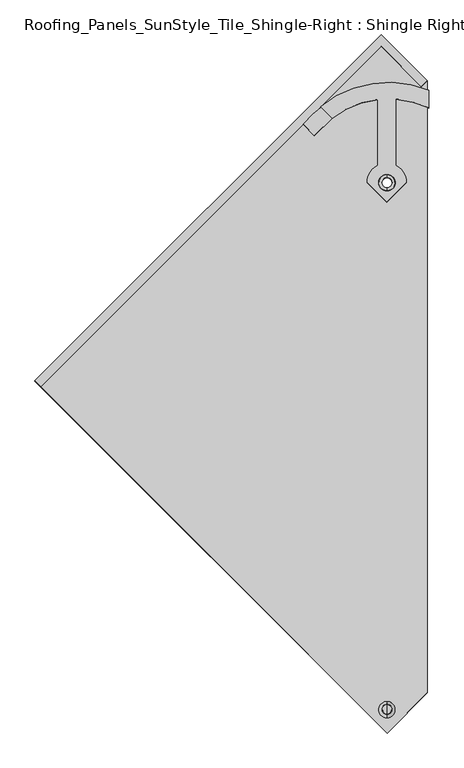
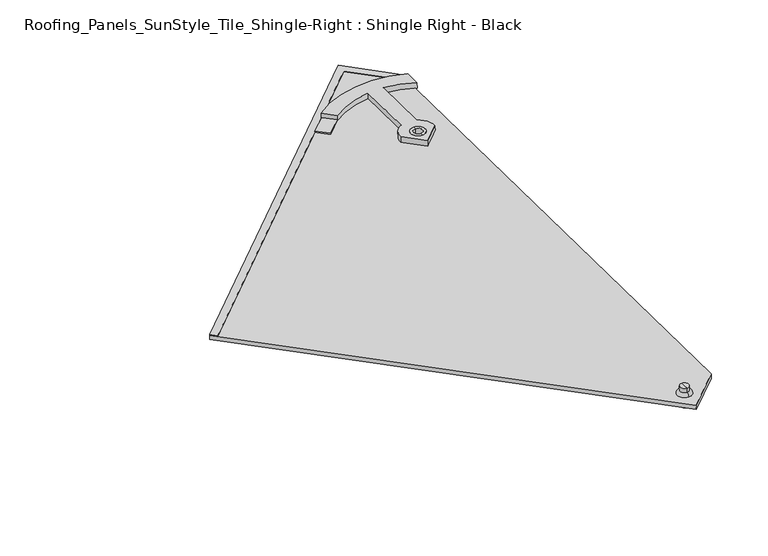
"""IFC4 building model written with IfcOpenShell, lengths in millimetres: proxy geometry, Roofing_Panels_SunStyle_Tile_Shingle-Right : Shingle Right - Black."""

from ifc_helpers import new_model, si_unit, point, frame, frame_2d, origin, place, context, project, spatial, polyline, circle_curve, ellipse_curve, trimmed, segment, composite_curve, outline, extrude, source, transform, mapped, element, save
from ifc_brep_helpers import plane_surface, cylinder_surface, revolved_surface, advanced_brep


def roofing_panels_sunstyle_tile_shingle_right_shingle_right_37b1760f(model_context):
    return source(origin(), model_context, "Body", "SolidModel", [
        advanced_brep(
        [(0.0, -498.1514468, 26.2215343), (0.0, -484.8183663, 25.9982384), (0.0, -485.1866754, 4.0063691), (0.0, -498.5197559, 4.229665), (0.0, -503.6506757, 26.3136327), (0.0, -479.3191374, 25.90614), (0.0, -498.7016794, 31.2274395), (0.0, -484.1008164, 30.9829114), (0.0, -491.2672194, 39.1080636), (0.0, -483.9667879, 38.9857996), (0.0, -498.5676509, 39.2303277), (0.0, -491.8532156, 4.118017)],
        [
            (0, 1, circle_curve(frame((0.0, -491.4849065, 26.1098864), z_axis=(0.0, -0.016745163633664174, -0.9998597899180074), x_axis=(0.0, 0.9998597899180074, -0.016745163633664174)), 6.6674751)),
            (1, 2),
            (2, 3, circle_curve(frame((0.0, -491.8532156, 4.118017), z_axis=(0.0, 0.016745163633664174, 0.9998597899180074), x_axis=(0.0, 0.9998597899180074, -0.016745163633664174)), 6.6674751)),
            (3, 0),
            (1, 0, circle_curve(frame((0.0, -491.4849065, 26.1098864), z_axis=(0.0, -0.016745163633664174, -0.9998597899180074), x_axis=(0.0, 0.9998597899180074, -0.016745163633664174)), 6.6674751)),
            (3, 2, circle_curve(frame((0.0, -491.8532156, 4.118017), z_axis=(0.0, 0.016745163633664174, 0.9998597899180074), x_axis=(0.0, 0.9998597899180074, -0.016745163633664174)), 6.6674751)),
            (4, 5, circle_curve(frame((0.0, -491.4849065, 26.1098864), z_axis=(0.0, -0.016745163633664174, -0.9998597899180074), x_axis=(0.0, 0.9998597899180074, -0.016745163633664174)), 12.1674751)),
            (5, 1),
            (0, 4),
            (5, 4, circle_curve(frame((0.0, -491.4849065, 26.1098864), z_axis=(0.0, -0.016745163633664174, -0.9998597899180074), x_axis=(0.0, 0.9998597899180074, -0.016745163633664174)), 12.1674751)),
            (6, 7, circle_curve(frame((0.0, -491.4012479, 31.1051755), z_axis=(0.0, -0.016745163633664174, -0.9998597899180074), x_axis=(0.0, 0.9998597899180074, -0.016745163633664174)), 7.3014552)),
            (7, 5, circle_curve(frame((0.0, -484.4050144, 25.90614), z_axis=(-1.0, 0.0, 0.0), x_axis=(0.0, -1.0, 0.0)), 5.0858769)),
            (4, 6, circle_curve(frame((0.0, -498.5676509, 26.1433289), z_axis=(-1.0, 0.0, 0.0), x_axis=(0.0, 0.9994391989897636, -0.03348563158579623)), 5.0858769)),
            (7, 6, circle_curve(frame((0.0, -491.4012479, 31.1051755), z_axis=(0.0, -0.016745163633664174, -0.9998597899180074), x_axis=(0.0, 0.9998597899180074, -0.016745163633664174)), 7.3014552)),
            (8, 9),
            (9, 10, circle_curve(frame((0.0, -491.2672194, 39.1080636), z_axis=(0.0, 0.016745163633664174, 0.9998597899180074), x_axis=(0.0, 0.9998597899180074, -0.016745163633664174)), 7.3014552)),
            (10, 8),
            (10, 9, circle_curve(frame((0.0, -491.2672194, 39.1080636), z_axis=(0.0, 0.016745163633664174, 0.9998597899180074), x_axis=(0.0, 0.9998597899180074, -0.016745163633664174)), 7.3014552)),
            (2, 11),
            (11, 3),
            (9, 7),
            (6, 10),
        ],
        [
            cylinder_surface(frame((0.0, -491.2672194, 39.1080636), z_axis=(0.0, 0.016745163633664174, 0.9998597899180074), x_axis=(0.0, 0.9998597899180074, -0.016745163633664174)), 6.6674751),
            plane_surface(frame((0.0, -491.4849065, 26.1098864), z_axis=(0.0, -0.016745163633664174, -0.9998597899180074), x_axis=(0.0, 0.9998597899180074, -0.016745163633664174))),
            revolved_surface(trimmed(ellipse_curve(frame((0.0, -484.4050144, 25.90614), z_axis=(1.0, 0.0, 0.0), x_axis=(0.0, -1.0, 0.0)), 5.0858769, 5.0858769), [point((0.0, -479.3191374, 25.90614))], [point((0.0, -484.1008164, 30.9829114))], True, "CARTESIAN"), (0.0, -491.2672194, 39.1080636), (0.0, 0.016745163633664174, 0.9998597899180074)),
            plane_surface(frame((0.0, -491.2672194, 39.1080636), z_axis=(0.0, 0.016745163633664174, 0.9998597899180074), x_axis=(0.0, 0.9998597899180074, -0.016745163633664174))),
            plane_surface(frame((0.0, -491.8532156, 4.118017), z_axis=(0.0, -0.016745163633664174, -0.9998597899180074), x_axis=(0.0, 0.9998597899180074, -0.016745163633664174))),
            cylinder_surface(frame((0.0, -491.2672194, 39.1080636), z_axis=(0.0, 0.016745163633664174, 0.9998597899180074), x_axis=(0.0, 0.9998597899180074, -0.016745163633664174)), 7.3014552),
        ],
        [
            (0, [[1, 2, 3, 4]]),
            (0, [[5, -4, 6, -2]]),
            (1, [[7, 8, -1, 9]]),
            (1, [[10, -9, -5, -8]]),
            (2, [[11, 12, -7, 13]]),
            (2, [[14, -13, -10, -12]]),
            (3, [[15, 16, 17]]),
            (3, [[-17, 18, -15]]),
            (4, [[-3, 19, 20]]),
            (4, [[-6, -20, -19]]),
            (5, [[-16, 21, -11, 22]]),
            (5, [[-18, -22, -14, -21]]),
        ],
    ),
        advanced_brep(
        [(0.0, 289.1909153, 21.4748126), (0.0, 304.5237163, 21.2180263), (0.0, 309.0230849, 21.1426731), (0.0, 284.6915467, 21.5501658), (0.0, 288.9229931, 5.4770559), (0.0, 304.2557933, 5.2202697), (0.0, 284.4236241, 5.5524091), (0.0, 308.7551623, 5.1449164)],
        [
            (0, 1, circle_curve(frame((0.0, 296.8573158, 21.3464194), z_axis=(0.0, -0.016745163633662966, -0.9998597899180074), x_axis=(0.0, 0.9998597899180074, -0.016745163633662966)), 7.6674755)),
            (1, 2),
            (2, 3, circle_curve(frame((0.0, 296.8573158, 21.3464194), z_axis=(0.0, 0.016745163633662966, 0.9998597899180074), x_axis=(0.0, 0.9998597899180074, -0.016745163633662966)), 12.1674751)),
            (3, 0),
            (1, 0, circle_curve(frame((0.0, 296.8573158, 21.3464194), z_axis=(0.0, -0.016745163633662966, -0.9998597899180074), x_axis=(0.0, 0.9998597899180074, -0.016745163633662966)), 7.6674755)),
            (3, 2, circle_curve(frame((0.0, 296.8573158, 21.3464194), z_axis=(0.0, 0.016745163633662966, 0.9998597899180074), x_axis=(0.0, 0.9998597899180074, -0.016745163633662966)), 12.1674751)),
            (4, 5, circle_curve(frame((0.0, 296.5893932, 5.3486628), z_axis=(0.0, -0.016745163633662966, -0.9998597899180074), x_axis=(0.0, 0.9998597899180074, -0.016745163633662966)), 7.6674751)),
            (5, 1),
            (0, 4),
            (5, 4, circle_curve(frame((0.0, 296.5893932, 5.3486628), z_axis=(0.0, -0.016745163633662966, -0.9998597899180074), x_axis=(0.0, 0.9998597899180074, -0.016745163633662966)), 7.6674751)),
            (6, 7, circle_curve(frame((0.0, 296.5893932, 5.3486628), z_axis=(0.0, -0.016745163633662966, -0.9998597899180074), x_axis=(0.0, 0.9998597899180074, -0.016745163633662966)), 12.1674751)),
            (7, 5),
            (4, 6),
            (7, 6, circle_curve(frame((0.0, 296.5893932, 5.3486628), z_axis=(0.0, -0.016745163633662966, -0.9998597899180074), x_axis=(0.0, 0.9998597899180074, -0.016745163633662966)), 12.1674751)),
            (2, 7),
            (6, 3),
        ],
        [
            plane_surface(frame((0.0, 296.8573158, 21.3464194), z_axis=(0.0, 0.016745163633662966, 0.9998597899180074), x_axis=(0.0, 0.9998597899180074, -0.016745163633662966))),
            revolved_surface(polyline([(0.0, 304.52371584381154, 21.21802634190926), (0.0, 304.25579322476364, 5.2202696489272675)]), (0.0, 296.8573158, 21.3464194), (0.0, 0.016745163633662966, 0.9998597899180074)),
            plane_surface(frame((0.0, 296.5893932, 5.3486628), z_axis=(0.0, -0.016745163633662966, -0.9998597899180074), x_axis=(0.0, 0.9998597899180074, -0.016745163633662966))),
            cylinder_surface(frame((0.0, 296.8573158, 21.3464194), z_axis=(0.0, 0.016745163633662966, 0.9998597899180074), x_axis=(0.0, 0.9998597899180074, -0.016745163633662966)), 12.1674751),
        ],
        [
            (0, [[1, 2, 3, 4]]),
            (0, [[5, -4, 6, -2]]),
            (1, [[7, 8, -1, 9]]),
            (1, [[10, -9, -5, -8]]),
            (2, [[11, 12, -7, 13]]),
            (2, [[14, -13, -10, -12]]),
            (3, [[-3, 15, -11, 16]]),
            (3, [[-6, -16, -14, -15]]),
        ],
    ),
        extrude(outline(polyline([(0.0, -12.0000001), (0.0, 0.0), (85.4385228, 0.0), (85.5395314, 720.3594741), (97.5395314, 720.3577914), (97.4368403, -12.0), (0.0, -12.0000001)])), frame((51.6046704, 440.650776, 8.9238202), z_axis=(0.0, 0.016745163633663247, 0.9998597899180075), x_axis=(-0.7071563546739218, 0.7069580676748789, -0.011839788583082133)), (0.0, 0.0, 1.0), 1.5),
        extrude(outline(polyline([(920.2926688, 0.0), (920.3063314, -97.4368393), (272.886192, -744.9477663), (188.0393267, -744.9477663), (187.9348702, 0.0), (920.2926688, 0.0)]), holes=[composite_curve([segment(trimmed(circle_curve(frame_2d((212.6016674, -720.3015642)), 8.0), [point((206.9444166, -714.6451066))], [point((218.2589182, -725.9580218))], True, "CARTESIAN"), True, "CONTINUOUS"), segment(trimmed(circle_curve(frame_2d((212.6016674, -720.3015642)), 8.0), [point((218.2589182, -725.9580218))], [point((206.9444166, -714.6451066))], True, "CARTESIAN"), True, "CONTINUOUS")], self_intersect=False), composite_curve([segment(trimmed(circle_curve(frame_2d((770.0077686, -163.0730261)), 12.0), [point((761.5218923, -154.5883396))], [point((778.4936449, -171.5577125))], True, "CARTESIAN"), True, "CONTINUOUS"), segment(trimmed(circle_curve(frame_2d((770.0077686, -163.0730261)), 12.0), [point((778.4936449, -171.5577125))], [point((761.5218923, -154.5883396))], True, "CARTESIAN"), True, "CONTINUOUS")], self_intersect=False)]), frame((-659.6045328, -132.7146928, 11.0252134), z_axis=(0.0, 0.01674516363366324, 0.9998597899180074), x_axis=(0.7071563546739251, 0.7069580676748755, -0.011839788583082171)), (0.0, 0.0, 1.0), 7.5),
        advanced_brep(
        [(-99.2537754, 410.8049885, 19.4250652), (-82.1705997, 393.724208, 19.7111257), (-13.6052199, 421.2896694, 19.2494728), (-13.6052199, 323.2286693, 20.8917506), (-29.6946479, 297.0245496, 21.3306044), (-0.3052199, 267.6392422, 21.8227352), (29.0842082, 297.0245496, 21.3306044), (12.9947801, 323.2286693, 20.8917506), (12.9947801, 421.8742934, 19.2396818), (62.8631532, 408.7750062, 19.4590623), (62.8631532, 435.500209, 19.0114817), (-12.3052199, 297.0245496, 21.3306044), (11.6947801, 297.0245496, 21.3306044), (-99.2537754, 410.6375369, 9.4264673), (62.8631532, 435.3327574, 9.0128838), (62.8631532, 408.6075545, 9.4604644), (12.9947801, 421.7068418, 9.2410839), (12.9947801, 323.0612176, 10.8931527), (29.0842082, 296.8570979, 11.3320065), (-0.3052199, 267.4717906, 11.8241373), (-29.6946479, 296.8570979, 11.3320065), (-13.6052199, 323.0612176, 10.8931527), (-13.6052199, 421.1222178, 9.2508749), (-82.1705997, 393.5567563, 9.7125278), (-108.4975731, 367.2339059, 10.1533701), (-125.5823787, 384.3163161, 9.8672822), (-110.8786653, 399.0159066, 9.6211006), (-98.6631868, 410.0428953, 9.436426), (-12.3052199, 296.8570979, 11.3320065), (11.6947801, 296.8570979, 11.3320065), (-125.5823787, 384.358179, 12.3669317), (-108.4975731, 367.2757688, 12.6530196), (-82.1717275, 393.5979232, 12.212189), (-98.6611187, 410.0868261, 11.9360409), (-110.8786653, 399.0577695, 12.1207501)],
        [
            (0, 1),
            (1, 2, circle_curve(frame((2.7737963, 281.5280894, 21.5901315), z_axis=(0.0, -0.01674516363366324, -0.9998597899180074), x_axis=(1.0, 0.0, 0.0)), 140.737522)),
            (2, 3),
            (3, 4, circle_curve(frame((-0.3052199, 297.0245496, 21.3306044), z_axis=(0.0, 0.01674516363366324, 0.9998597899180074), x_axis=(1.0, 0.0, 0.0)), 29.3894281)),
            (4, 5),
            (5, 6),
            (6, 7, circle_curve(frame((-0.3052199, 297.0245496, 21.3306044), z_axis=(0.0, 0.01674516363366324, 0.9998597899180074), x_axis=(1.0, 0.0, 0.0)), 29.3894281)),
            (7, 8),
            (8, 9, circle_curve(frame((2.7737963, 281.5280894, 21.5901315), z_axis=(0.0, -0.01674516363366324, -0.9998597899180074), x_axis=(1.0, 0.0, 0.0)), 140.737522)),
            (9, 10),
            (10, 0, circle_curve(frame((2.7737963, 285.5351157, 21.5230238), z_axis=(0.0, 0.01674516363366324, 0.9998597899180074), x_axis=(1.0, 0.0, 0.0)), 161.57527)),
            (11, 12, circle_curve(frame((-0.3052199, 297.0245496, 21.3306044), z_axis=(0.0, -0.01674516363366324, -0.9998597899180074), x_axis=(1.0, 0.0, 0.0)), 12.0)),
            (12, 11, circle_curve(frame((-0.3052199, 297.0245496, 21.3306044), z_axis=(0.0, -0.01674516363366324, -0.9998597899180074), x_axis=(1.0, 0.0, 0.0)), 12.0)),
            (13, 14, circle_curve(frame((2.7737963, 285.367664, 11.5244259), z_axis=(0.0, -0.01674516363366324, -0.9998597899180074), x_axis=(1.0, 0.0, 0.0)), 161.57527)),
            (14, 15),
            (15, 16, circle_curve(frame((2.7737963, 281.3606378, 11.5915336), z_axis=(0.0, 0.01674516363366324, 0.9998597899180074), x_axis=(1.0, 0.0, 0.0)), 140.737522)),
            (16, 17),
            (17, 18, circle_curve(frame((-0.3052199, 296.8570979, 11.3320065), z_axis=(0.0, -0.01674516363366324, -0.9998597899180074), x_axis=(1.0, 0.0, 0.0)), 29.3894281)),
            (18, 19),
            (19, 20),
            (20, 21, circle_curve(frame((-0.3052199, 296.8570979, 11.3320065), z_axis=(0.0, -0.01674516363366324, -0.9998597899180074), x_axis=(1.0, 0.0, 0.0)), 29.3894281)),
            (21, 22),
            (22, 23, circle_curve(frame((2.7737963, 281.3606378, 11.5915336), z_axis=(0.0, 0.01674516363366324, 0.9998597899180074), x_axis=(1.0, 0.0, 0.0)), 140.737522)),
            (23, 24),
            (24, 25),
            (25, 26),
            (26, 27, circle_curve(frame((3.3642933, 284.7729479, 11.5343859), z_axis=(0.0, -0.01674516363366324, -0.9998597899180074), x_axis=(-1.0, 0.0, 0.0)), 161.57527)),
            (27, 13),
            (28, 29, circle_curve(frame((-0.3052199, 296.8570979, 11.3320065), z_axis=(0.0, 0.01674516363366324, 0.9998597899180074), x_axis=(1.0, 0.0, 0.0)), 12.0)),
            (29, 28, circle_curve(frame((-0.3052199, 296.8570979, 11.3320065), z_axis=(0.0, 0.01674516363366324, 0.9998597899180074), x_axis=(1.0, 0.0, 0.0)), 12.0)),
            (2, 22),
            (21, 3),
            (20, 4),
            (19, 5),
            (18, 6),
            (17, 7),
            (16, 8),
            (10, 14),
            (13, 0),
            (11, 28),
            (29, 12),
            (30, 31),
            (31, 32),
            (32, 33),
            (33, 34, circle_curve(frame((3.3642933, 284.8148108, 14.0340354), z_axis=(0.0, 0.01674516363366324, 0.9998597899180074), x_axis=(-1.0, 0.0, 0.0)), 161.57527)),
            (34, 30),
            (30, 25),
            (24, 31),
            (23, 32),
            (33, 27),
            (26, 34),
            (32, 1),
            (15, 9),
        ],
        [
            plane_surface(frame((-99.2537754, 410.8049885, 19.4250652), z_axis=(0.0, 0.01674516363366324, 0.9998597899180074), x_axis=(0.7071067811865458, -0.7070076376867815, 0.011840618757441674))),
            plane_surface(frame((-99.2537754, 410.6375369, 9.4264673), z_axis=(0.0, -0.01674516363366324, -0.9998597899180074), x_axis=(-0.7071067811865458, 0.7070076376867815, -0.011840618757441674))),
            plane_surface(frame((-13.6052199, 421.2896694, 19.2494728), z_axis=(-1.0000000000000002, 0.0, 0.0), x_axis=(0.0, -0.01674516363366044, -0.9998597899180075))),
            cylinder_surface(frame((-0.3052199, 296.8570979, 11.3320065), z_axis=(0.0, 0.01674516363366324, 0.9998597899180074), x_axis=(1.0, 0.0, 0.0)), 29.3894281),
            plane_surface(frame((-29.6946479, 297.0245496, 21.3306044), z_axis=(-0.7071067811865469, -0.7070076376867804, 0.011840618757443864), x_axis=(0.0, -0.016745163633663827, -0.9998597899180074))),
            plane_surface(frame((-0.3052199, 267.6392422, 21.8227352), z_axis=(0.707106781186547, -0.7070076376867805, 0.011840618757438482), x_axis=(0.0, -0.016745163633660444, -0.9998597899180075))),
            plane_surface(frame((12.9947801, 323.2286693, 20.8917506), z_axis=(1.0000000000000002, 0.0, 0.0), x_axis=(0.0, -0.01674516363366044, -0.9998597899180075))),
            cylinder_surface(frame((2.7737963, 285.367664, 11.5244259), z_axis=(0.0, 0.01674516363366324, 0.9998597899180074), x_axis=(1.0, 0.0, 0.0)), 161.57527),
            revolved_surface(polyline([(11.6947801, 296.8570979, 11.3320065), (11.6947801, 297.02454953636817, 21.330604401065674)]), (-0.3052199, 296.8570979, 11.3320065), (0.0, -0.01674516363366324, -0.9998597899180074)),
            plane_surface(frame((2.7714708, 256.022326, 14.5162379), z_axis=(0.0, 0.01674516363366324, 0.9998597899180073), x_axis=(0.7071067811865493, -0.707007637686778, 0.011840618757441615))),
            plane_surface(frame((-125.5823787, 384.358179, 12.3669317), z_axis=(-0.7071067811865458, -0.7070076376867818, 0.011840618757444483), x_axis=(0.0, -0.016745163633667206, -0.9998597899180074))),
            plane_surface(frame((-108.4975731, 367.2757688, 12.6530196), z_axis=(0.7071067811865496, -0.707007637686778, 0.011840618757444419), x_axis=(0.0, -0.016745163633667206, -0.9998597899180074))),
            cylinder_surface(frame((3.3642933, 284.7729479, 11.5343859), z_axis=(0.0, 0.01674516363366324, 0.9998597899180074), x_axis=(-1.0, 0.0, 0.0)), 161.57527),
            plane_surface(frame((-110.8786653, 399.0577695, 12.1207501), z_axis=(-0.7070572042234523, 0.7070572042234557, -0.011841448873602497), x_axis=(0.0, -0.016745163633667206, -0.9998597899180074))),
            plane_surface(frame((-99.2537754, 410.8049885, 19.4250652), z_axis=(-0.7071067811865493, -0.7070076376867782, 0.011840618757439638), x_axis=(0.0, -0.01674516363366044, -0.9998597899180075))),
            revolved_surface(polyline([(143.5113183, 281.3606378, 11.5915336), (143.5113183, 281.52808943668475, 21.59013151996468)]), (2.7737963, 281.3606378, 11.5915336), (0.0, -0.01674516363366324, -0.9998597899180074)),
            revolved_surface(polyline([(143.5113183, 281.3606378, 11.5915336), (143.5113183, 281.5280894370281, 21.59013154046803)]), (2.7737963, 281.3606378, 11.5915336), (0.0, -0.01674516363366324, -0.9998597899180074)),
            plane_surface(frame((62.8631532, 408.7750062, 19.4590623), z_axis=(1.0000000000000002, 0.0, 0.0), x_axis=(0.0, -0.01674516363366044, -0.9998597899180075))),
        ],
        [
            (0, [[1, 2, 3, 4, 5, 6, 7, 8, 9, 10, 11], [12, 13]]),
            (1, [[14, 15, 16, 17, 18, 19, 20, 21, 22, 23, 24, 25, 26, 27, 28], [29, 30]]),
            (2, [[-3, 31, -22, 32]]),
            (3, [[-4, -32, -21, 33]]),
            (4, [[-5, -33, -20, 34]]),
            (5, [[-6, -34, -19, 35]]),
            (3, [[-7, -35, -18, 36]]),
            (6, [[-8, -36, -17, 37]]),
            (7, [[-11, 38, -14, 39]]),
            (8, [[-12, 40, -30, 41]]),
            (8, [[-13, -41, -29, -40]]),
            (9, [[42, 43, 44, 45, 46]]),
            (10, [[-42, 47, -25, 48]]),
            (11, [[-43, -48, -24, 49]]),
            (12, [[-45, 50, -27, 51]]),
            (13, [[-46, -51, -26, -47]]),
            (14, [[-1, -39, -28, -50, -44, 52]]),
            (15, [[-2, -52, -49, -23, -31]]),
            (16, [[-9, -37, -16, 53]]),
            (17, [[-10, -53, -15, -38]]),
        ],
    ),
    ])


if __name__ == "__main__":
    model = new_model("IFC4")
    model_context = context("Model", 3, world=origin())
    ifc_project = project(units=[si_unit("LENGTHUNIT", "METRE", prefix="MILLI")], contexts=[model_context])
    site = spatial("IfcSite", under=ifc_project)
    building = spatial("IfcBuilding", under=site)
    placement = place(None, origin())
    roofing_panels_sunstyle_tile_shingle_right_shingle_right_shape = roofing_panels_sunstyle_tile_shingle_right_shingle_right_37b1760f(model_context)
    element("IfcBuildingElementProxy", 1, Name="Roofing_Panels_SunStyle_Tile_Shingle-Right : Shingle Right - Black", ObjectType="Roofing_Panels_SunStyle_Tile_Shingle-Right : Shingle Right - Black", at=placement, inside=building, context=model_context, shape_type="MappedRepresentation", body=[
        mapped(roofing_panels_sunstyle_tile_shingle_right_shingle_right_shape, transform((0.0, 0.0, 0.0), x_axis=(1.0, 0.0, 0.0), y_axis=(0.0, 1.0, 0.0), z_axis=(0.0, 0.0, 1.0))),
    ])
    save(model, "model.ifc")
